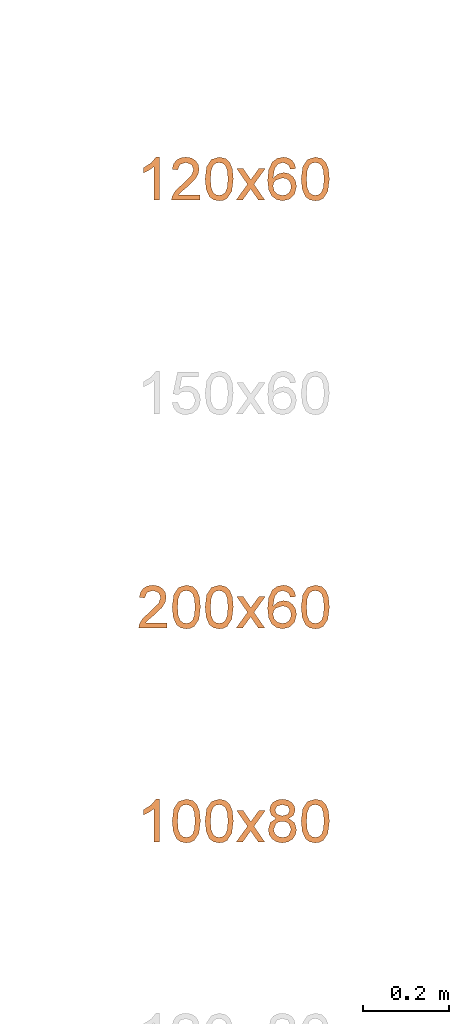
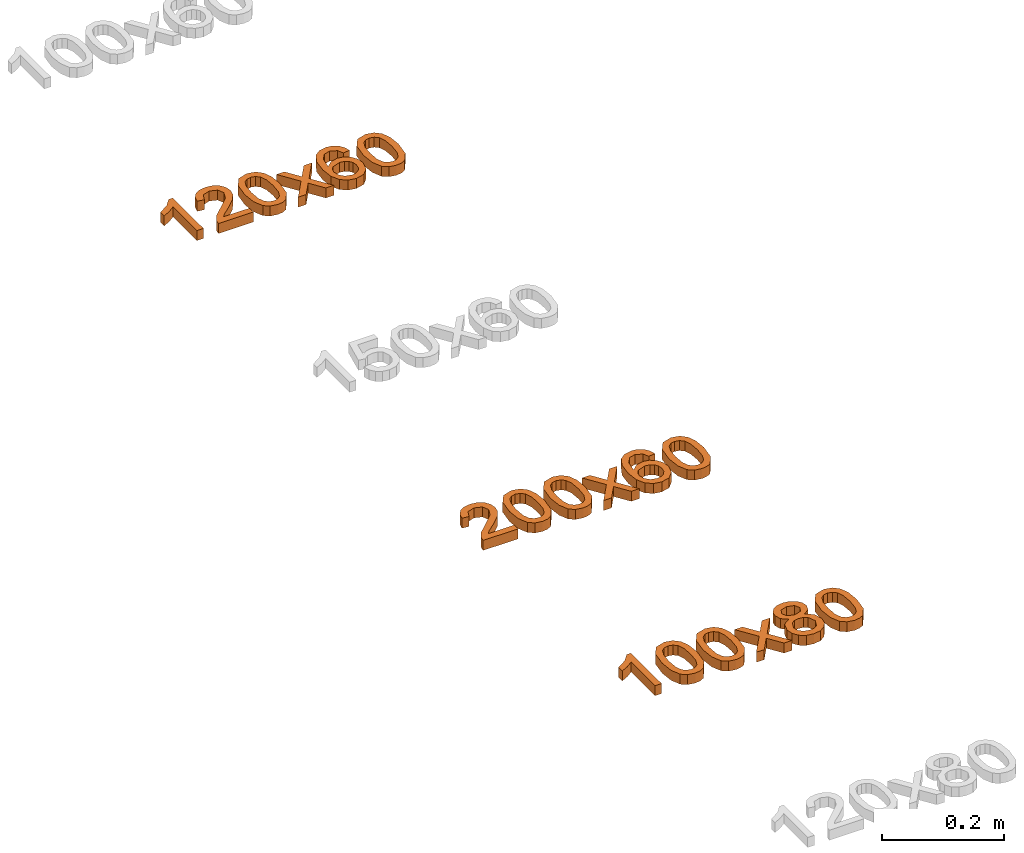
# One storey, part 52 of 71: 3 proxies.
"""IFC2X3 building model written with IfcOpenShell, lengths in millimetres."""

from ifc_helpers import new_model, entity, si_unit, converted_unit, derived_unit, direction, frame, origin, place, context, subcontext, project, spatial, polyline, outline, extrude, element, save


model = new_model("IFC2X3")

# Units and contexts
model_context = context("Model", 3, precision=0.01, world=origin(), true_north=direction((6.12303176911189e-17, 1.0)))
body_context = subcontext(model_context, "Body", "Model", "MODEL_VIEW")
ifc_project = project(units=[si_unit("LENGTHUNIT", "METRE", prefix="MILLI"), si_unit("AREAUNIT", "SQUARE_METRE"), si_unit("VOLUMEUNIT", "CUBIC_METRE"), converted_unit("PLANEANGLEUNIT", "DEGREE", entity("IfcRatioMeasure", 0.0174532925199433), si_unit("PLANEANGLEUNIT", "RADIAN"), dimensions=[0, 0, 0, 0, 0, 0, 0]), si_unit("MASSUNIT", "GRAM", prefix="KILO"), derived_unit("MASSDENSITYUNIT", [(si_unit("MASSUNIT", "GRAM", prefix="KILO"), 1), (si_unit("LENGTHUNIT", "METRE"), -3)]), si_unit("TIMEUNIT", "SECOND"), si_unit("FREQUENCYUNIT", "HERTZ"), si_unit("THERMODYNAMICTEMPERATUREUNIT", "DEGREE_CELSIUS"), derived_unit("THERMALTRANSMITTANCEUNIT", [(si_unit("MASSUNIT", "GRAM", prefix="KILO"), 1), (si_unit("THERMODYNAMICTEMPERATUREUNIT", "KELVIN"), -1), (si_unit("TIMEUNIT", "SECOND"), -3)]), derived_unit("VOLUMETRICFLOWRATEUNIT", [(si_unit("LENGTHUNIT", "METRE"), 3), (si_unit("TIMEUNIT", "SECOND"), -1)]), si_unit("ELECTRICCURRENTUNIT", "AMPERE"), si_unit("ELECTRICVOLTAGEUNIT", "VOLT"), si_unit("POWERUNIT", "WATT"), si_unit("FORCEUNIT", "NEWTON", prefix="KILO"), si_unit("ILLUMINANCEUNIT", "LUX"), si_unit("LUMINOUSFLUXUNIT", "LUMEN"), si_unit("LUMINOUSINTENSITYUNIT", "CANDELA"), derived_unit("USERDEFINED", [(si_unit("MASSUNIT", "GRAM", prefix="KILO"), -1), (si_unit("LENGTHUNIT", "METRE"), -2), (si_unit("TIMEUNIT", "SECOND"), 3), (si_unit("LUMINOUSFLUXUNIT", "LUMEN"), 1)]), derived_unit("LINEARVELOCITYUNIT", [(si_unit("LENGTHUNIT", "METRE"), 1), (si_unit("TIMEUNIT", "SECOND"), -1)]), si_unit("PRESSUREUNIT", "PASCAL"), derived_unit("USERDEFINED", [(si_unit("LENGTHUNIT", "METRE"), -2), (si_unit("MASSUNIT", "GRAM", prefix="KILO"), 1), (si_unit("TIMEUNIT", "SECOND"), -2)])], contexts=[model_context])

# Site, building, storey
site_placement = place(None, origin())
site = spatial("IfcSite", under=ifc_project, at=site_placement, Name="Default", CompositionType="ELEMENT")
building_placement = place(site_placement, origin())
building = spatial("IfcBuilding", under=site, at=building_placement, Name="Наименование здания", CompositionType="ELEMENT")
storey_placement = place(building_placement, origin())
storey = spatial("IfcBuildingStorey", under=building, at=storey_placement, Name="Этаж 01", CompositionType="ELEMENT", Elevation=0.0)

# Proxies
proxy_1_placement = place(storey_placement, origin())
element("IfcBuildingElementProxy", 1, at=proxy_1_placement, inside=storey, Name="Текст модели:100 мм Arial", ObjectType="Текст модели:100 мм Arial", context=body_context, shape_type="SweptSolid", body=[
    extrude(outline(polyline([(-63.8793021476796, -16.9184842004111), (36.5770080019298, -16.9184842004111), (36.5770080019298, -8.82508030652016), (23.2106288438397, 2.34626961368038), (11.4629304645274, 20.7526321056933), (-0.407395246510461, 20.7526321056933), (5.93243780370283, 7.53340574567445), (14.4059864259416, -4.3614454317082), (-63.8793021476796, -4.3614454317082), (-63.8793021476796, -16.9184842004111)])), frame((18050.6140165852, -1399.45595365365, 0.0), z_axis=(0.0, 0.0, 1.0), x_axis=(0.0, 1.0, 0.0)), (0.0, 0.0, 1.0), 20.0),
    extrude(outline(polyline([(-32.3858783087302, -45.1669477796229), (-32.3858783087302, -57.7239865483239), (33.5385752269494, -57.7239865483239), (32.1896745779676, -49.0664969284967), (24.5622545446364, -35.7369059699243), (8.84143061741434, -21.1810416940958), (-12.8390816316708, -0.260818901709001), (-18.2592096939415, 13.9639515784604), (-13.1456499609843, 25.4786580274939), (0.20846646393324, 30.1752848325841), (14.1266686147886, 25.5890226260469), (19.4119066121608, 12.90935652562), (31.9689453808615, 14.4789863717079), (28.9247218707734, 26.6252235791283), (22.3426998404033, 35.4973110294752), (12.5662358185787, 40.9235704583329), (-0.0613136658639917, 42.7323236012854), (-12.7808336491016, 40.7212353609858), (-22.5389035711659, 34.6879706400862), (-28.7469122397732, 25.6748617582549), (-30.8162484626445, 14.724241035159), (-28.5844310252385, 2.81712712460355), (-21.1654774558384, -9.49465698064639), (-3.17604789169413, -26.6992716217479), (11.2694517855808, -38.7780637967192), (16.9348345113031, -45.1669477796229), (-32.3858783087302, -45.1669477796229)])), frame((18129.3244132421, -1405.61126925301, 0.0), z_axis=(0.0, 0.0, -1.0), x_axis=(-1.0, 0.0, 0.0)), (0.0, 0.0, -1.0), 20.0),
    extrude(outline(polyline([(-7.02884310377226, -33.3490673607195), (17.5323805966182, -33.3490673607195), (35.198417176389, -27.6137612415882), (43.3439841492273, -18.4876517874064), (47.0516941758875, -5.75150665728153), (46.7162020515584, 4.48638208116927), (43.4465778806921, 13.0955287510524), (27.9444305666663, 25.6659118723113), (-0.314338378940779, 32.2325535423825), (-24.0296505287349, 32.3678288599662), (-39.4143020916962, 28.0260881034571), (-49.7293680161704, 18.9002174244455), (-54.4436715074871, 4.63998875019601), (-50.8676582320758, -14.130105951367), (-35.4058547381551, -26.7333390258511), (-7.02884310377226, -33.3490673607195)]), holes=[polyline([(-5.77428774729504, -20.8548320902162), (-25.0157644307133, -17.3562860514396), (-36.7257089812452, -11.5717922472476), (-41.0962588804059, -4.77599682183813), (-41.9669219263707, 3.21464792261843), (-39.2244253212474, 11.2791292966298), (-32.8654063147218, 17.2229259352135), (-20.9698370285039, 20.2947501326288), (-1.6176895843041, 19.7433141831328), (17.8514140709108, 16.2707701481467), (28.780364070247, 10.7141596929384), (33.5546988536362, 3.6181595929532), (34.5599568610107, -4.47255337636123), (31.9421230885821, -12.1923199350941), (25.8471825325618, -18.1754808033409), (14.0250679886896, -21.4027476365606), (-5.77428774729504, -20.8548320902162)])]), frame((18208.158867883, -1417.512078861, 0.0), z_axis=(0.0, 0.0, 1.0), x_axis=(0.1018515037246, -0.994799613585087, 0.0)), (0.0, 0.0, 1.0), 20.0),
    extrude(outline(polyline([(-34.530221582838, -38.4265006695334), (-19.422534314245, -38.4265006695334), (-0.341721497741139, -12.0616243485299), (2.47870713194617, -16.1328517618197), (17.8561745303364, -38.4265006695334), (32.9638617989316, -38.4265006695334), (7.40832586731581, -1.34399555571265), (33.944880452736, 35.3461020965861), (18.8371931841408, 35.3461020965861), (4.95577923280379, 16.1671874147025), (0.0261604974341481, 9.34910777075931), (-5.66374769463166, 17.6877663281), (-17.8529044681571, 35.3461020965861), (-32.9605917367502, 35.3461020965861), (-7.6993614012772, -1.34399555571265), (-34.530221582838, -38.4265006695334)])), frame((18281.0005248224, -1424.9087551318, 0.0)), (0.0, 0.0, 1.0), 20.0),
    extrude(outline(polyline([(6.79275401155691, -32.5027761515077), (18.3659045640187, -32.5027761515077), (28.152520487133, -28.8011371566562), (35.6312934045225, -21.7178704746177), (40.2809149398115, -11.5729874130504), (41.41307898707, 3.23667074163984), (36.1391243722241, 16.3729018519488), (21.8599739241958, 28.8803269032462), (-1.50836821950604, 38.2054593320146), (-23.6059131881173, 41.7609274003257), (-39.981422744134, 38.596528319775), (-51.1650797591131, 29.9216784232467), (-57.6870671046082, 16.9457940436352), (-57.9805556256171, -0.0494879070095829), (-49.2081886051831, -14.3141019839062), (-33.6167855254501, -22.9350568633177), (-20.6265742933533, -24.2502330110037), (-8.97800352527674, -20.6254922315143), (0.0919027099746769, -13.035096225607), (5.34612034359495, -2.45330669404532), (5.8548316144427, 11.6447254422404), (-0.843339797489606, 24.9910631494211), (19.7707676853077, 15.5765036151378), (28.4840991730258, 4.26766164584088), (28.3893512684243, -7.4637453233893), (19.9956250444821, -18.193633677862), (8.63303585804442, -19.9825396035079), (6.79275401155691, -32.5027761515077)]), holes=[polyline([(-18.7586717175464, 29.9549594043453), (-11.6328110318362, 26.3613362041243), (-6.9415407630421, 20.203831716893), (-5.85783236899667, 4.13761066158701), (-9.48331864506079, -3.95286412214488), (-15.1077394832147, -9.26901644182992), (-22.3091633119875, -11.5969098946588), (-30.665658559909, -10.7226080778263), (-38.6094491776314, -7.06141592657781), (-43.8637090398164, -1.22509865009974), (-46.183528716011, 6.17768396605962), (-45.3239987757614, 14.5382721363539), (-39.6901171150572, 24.7221971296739), (-30.0168134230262, 30.0585493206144), (-18.7586717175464, 29.9549594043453)])]), frame((18356.6584546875, -1404.7875175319, 0.0), z_axis=(0.0, 0.0, 1.0), x_axis=(-0.267015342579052, 0.963692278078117, 0.0)), (0.0, 0.0, 1.0), 20.0),
    extrude(outline(polyline([(-7.0288431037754, -33.3490673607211), (17.5323805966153, -33.349067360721), (35.1984171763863, -27.6137612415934), (43.3439841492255, -18.4876517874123), (47.051694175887, -5.75150665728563), (46.7162020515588, 4.48638208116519), (43.4465778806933, 13.0955287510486), (27.9444305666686, 25.6659118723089), (-0.314338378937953, 32.2325535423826), (-24.0296505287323, 32.3678288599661), (-39.4143020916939, 28.0260881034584), (-49.729368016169, 18.9002174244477), (-54.4436715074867, 4.63998875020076), (-50.8676582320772, -14.1301059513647), (-35.4058547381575, -26.733339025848), (-7.0288431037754, -33.3490673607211)]), holes=[polyline([(-5.77428774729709, -20.8548320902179), (-25.0157644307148, -17.3562860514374), (-36.7257089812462, -11.5717922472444), (-41.0962588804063, -4.77599682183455), (-41.9669219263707, 3.21464792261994), (-39.2244253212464, 11.2791292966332), (-32.8654063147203, 17.2229259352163), (-20.9698370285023, 20.2947501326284), (-1.61768958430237, 19.743314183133), (17.8514140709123, 16.2707701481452), (28.7803640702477, 10.7141596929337), (33.5546988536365, 3.61815959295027), (34.5599568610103, -4.47255337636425), (31.9421230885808, -12.192319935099), (25.84718253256, -18.1754808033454), (14.0250679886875, -21.402747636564), (-5.77428774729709, -20.8548320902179)])]), frame((18432.6159358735, -1417.512078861, 0.0), z_axis=(0.0, 0.0, 1.0), x_axis=(0.101851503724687, -0.994799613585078, 0.0)), (0.0, 0.0, 1.0), 20.0),
])
proxy_2_placement = place(storey_placement, origin())
element("IfcBuildingElementProxy", 2, at=proxy_2_placement, inside=storey, Name="Текст модели:100 мм Arial", ObjectType="Текст модели:100 мм Arial", context=body_context, shape_type="SweptSolid", body=[
    extrude(outline(polyline([(-32.385878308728, -45.1669477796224), (-32.385878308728, -57.7239865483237), (33.5385752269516, -57.7239865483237), (32.1896745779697, -49.0664969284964), (24.5622545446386, -35.736905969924), (8.84143061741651, -21.1810416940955), (-12.8390816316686, -0.260818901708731), (-18.2592096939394, 13.9639515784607), (-13.1456499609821, 25.4786580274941), (0.208466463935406, 30.1752848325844), (14.1266686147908, 25.5890226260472), (19.4119066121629, 12.9093565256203), (31.9689453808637, 14.4789863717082), (28.9247218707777, 26.6252235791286), (22.3426998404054, 35.4973110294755), (12.5662358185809, 40.9235704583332), (-0.0613136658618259, 42.7323236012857), (-12.7808336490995, 40.7212353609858), (-22.5389035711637, 34.6879706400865), (-28.746912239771, 25.6748617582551), (-30.8162484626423, 14.7242410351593), (-28.5844310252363, 2.81712712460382), (-21.1654774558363, -9.49465698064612), (-3.17604789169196, -26.6992716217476), (11.2694517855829, -38.778063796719), (16.9348345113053, -45.1669477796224), (-32.385878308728, -45.1669477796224)])), frame((18052.4125507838, -2405.61126925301, 0.0), z_axis=(0.0, 0.0, -1.0), x_axis=(-1.0, 0.0, 0.0)), (0.0, 0.0, -1.0), 20.0),
    extrude(outline(polyline([(-7.02884310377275, -33.3490673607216), (17.5323805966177, -33.3490673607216), (35.1984171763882, -27.6137612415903), (43.3439841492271, -18.4876517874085), (47.0516941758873, -5.75150665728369), (46.7162020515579, 4.48638208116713), (43.4465778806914, 13.0955287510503), (27.9444305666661, 25.6659118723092), (-0.314338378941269, 32.2325535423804), (-24.0296505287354, 32.3678288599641), (-39.4143020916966, 28.026088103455), (-49.7293680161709, 18.9002174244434), (-54.4436715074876, 4.6399887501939), (-50.8676582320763, -14.1301059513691), (-35.4058547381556, -26.7333390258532), (-7.02884310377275, -33.3490673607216)]), holes=[polyline([(-5.77428774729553, -20.8548320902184), (-25.0157644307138, -17.3562860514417), (-36.7257089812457, -11.5717922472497), (-41.0962588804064, -4.77599682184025), (-41.9669219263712, 3.21464792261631), (-39.2244253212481, 11.2791292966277), (-32.8654063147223, 17.2229259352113), (-20.9698370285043, 20.2947501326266), (-1.61768958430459, 19.7433141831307), (17.8514140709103, 16.2707701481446), (28.7803640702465, 10.7141596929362), (33.5546988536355, 3.61815959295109), (34.5599568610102, -4.47255337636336), (31.9421230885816, -12.1923199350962), (25.8471825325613, -18.1754808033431), (14.0250679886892, -21.4027476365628), (-5.77428774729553, -20.8548320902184)])]), frame((18131.2470054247, -2417.512078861, 0.0), z_axis=(0.0, 0.0, 1.0), x_axis=(0.1018515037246, -0.994799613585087, 0.0)), (0.0, 0.0, 1.0), 20.0),
    extrude(outline(polyline([(-7.02884310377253, -33.3490673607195), (17.5323805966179, -33.3490673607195), (35.1984171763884, -27.6137612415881), (43.3439841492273, -18.4876517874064), (47.0516941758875, -5.75150665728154), (46.7162020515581, 4.48638208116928), (43.4465778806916, 13.0955287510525), (27.9444305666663, 25.6659118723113), (-0.314338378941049, 32.2325535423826), (-24.0296505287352, 32.3678288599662), (-39.4143020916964, 28.0260881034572), (-49.7293680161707, 18.9002174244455), (-54.4436715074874, 4.63998875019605), (-50.8676582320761, -14.1301059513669), (-35.4058547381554, -26.733339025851), (-7.02884310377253, -33.3490673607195)]), holes=[polyline([(-5.77428774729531, -20.8548320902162), (-25.0157644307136, -17.3562860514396), (-36.7257089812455, -11.5717922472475), (-41.0962588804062, -4.77599682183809), (-41.966921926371, 3.21464792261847), (-39.2244253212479, 11.2791292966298), (-32.8654063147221, 17.2229259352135), (-20.9698370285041, 20.2947501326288), (-1.61768958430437, 19.7433141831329), (17.8514140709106, 16.2707701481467), (28.7803640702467, 10.7141596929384), (33.5546988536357, 3.61815959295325), (34.5599568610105, -4.47255337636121), (31.9421230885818, -12.192319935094), (25.8471825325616, -18.1754808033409), (14.0250679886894, -21.4027476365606), (-5.77428774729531, -20.8548320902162)])]), frame((18208.158867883, -2417.512078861, 0.0), z_axis=(0.0, 0.0, 1.0), x_axis=(0.1018515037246, -0.994799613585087, 0.0)), (0.0, 0.0, 1.0), 20.0),
    extrude(outline(polyline([(-34.530221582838, -38.4265006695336), (-19.422534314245, -38.4265006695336), (-0.341721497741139, -12.0616243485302), (2.47870713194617, -16.1328517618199), (17.8561745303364, -38.4265006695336), (32.9638617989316, -38.4265006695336), (7.40832586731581, -1.34399555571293), (33.944880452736, 35.3461020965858), (18.8371931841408, 35.3461020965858), (4.95577923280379, 16.1671874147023), (0.0261604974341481, 9.34910777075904), (-5.66374769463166, 17.6877663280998), (-17.8529044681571, 35.3461020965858), (-32.9605917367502, 35.3461020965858), (-7.6993614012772, -1.34399555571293), (-34.530221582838, -38.4265006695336)])), frame((18281.0005248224, -2424.9087551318, 0.0)), (0.0, 0.0, 1.0), 20.0),
    extrude(outline(polyline([(6.79275401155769, -32.502776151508), (18.3659045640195, -32.502776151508), (28.1525204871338, -28.8011371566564), (35.6312934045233, -21.7178704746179), (40.2809149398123, -11.5729874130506), (41.4130789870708, 3.23667074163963), (36.1391243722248, 16.3729018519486), (21.8599739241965, 28.880326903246), (-1.50836821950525, 38.2054593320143), (-23.6059131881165, 41.7609274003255), (-39.9814227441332, 38.5965283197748), (-51.1650797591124, 29.9216784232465), (-57.6870671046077, 16.9457940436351), (-57.9805556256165, -0.0494879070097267), (-49.2081886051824, -14.3141019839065), (-33.6167855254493, -22.9350568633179), (-20.6265742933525, -24.2502330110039), (-8.97800352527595, -20.6254922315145), (0.0919027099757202, -13.0350962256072), (5.34612034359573, -2.45330669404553), (5.85483161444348, 11.6447254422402), (-0.843339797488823, 24.9910631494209), (19.7707676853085, 15.5765036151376), (28.4840991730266, 4.26766164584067), (28.389351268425, -7.46374532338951), (19.9956250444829, -18.1936336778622), (8.6330358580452, -19.9825396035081), (6.79275401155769, -32.502776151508)]), holes=[polyline([(-18.7586717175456, 29.9549594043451), (-11.6328110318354, 26.3613362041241), (-6.94154076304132, 20.2038317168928), (-5.85783236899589, 4.1376106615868), (-9.48331864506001, -3.95286412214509), (-15.107739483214, -9.26901644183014), (-22.3091633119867, -11.596909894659), (-30.6656585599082, -10.7226080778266), (-38.6094491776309, -7.06141592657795), (-43.8637090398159, -1.22509865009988), (-46.1835287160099, 6.17768396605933), (-45.3239987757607, 14.5382721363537), (-39.6901171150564, 24.7221971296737), (-30.0168134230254, 30.0585493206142), (-18.7586717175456, 29.9549594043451)])]), frame((18356.6584546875, -2404.7875175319, 0.0), z_axis=(0.0, 0.0, 1.0), x_axis=(-0.267015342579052, 0.963692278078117, 0.0)), (0.0, 0.0, 1.0), 20.0),
    extrude(outline(polyline([(-7.02884310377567, -33.349067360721), (17.532380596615, -33.349067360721), (35.1984171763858, -27.6137612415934), (43.3439841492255, -18.4876517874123), (47.051694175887, -5.75150665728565), (46.7162020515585, 4.48638208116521), (43.4465778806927, 13.0955287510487), (27.9444305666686, 25.6659118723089), (-0.314338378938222, 32.2325535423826), (-24.0296505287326, 32.3678288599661), (-39.4143020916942, 28.0260881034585), (-49.7293680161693, 18.9002174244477), (-54.443671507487, 4.6399887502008), (-50.8676582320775, -14.1301059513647), (-35.4058547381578, -26.7333390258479), (-7.02884310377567, -33.349067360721)]), holes=[polyline([(-5.77428774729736, -20.8548320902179), (-25.0157644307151, -17.3562860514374), (-36.7257089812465, -11.5717922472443), (-41.0962588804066, -4.77599682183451), (-41.9669219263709, 3.21464792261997), (-39.2244253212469, 11.2791292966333), (-32.8654063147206, 17.2229259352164), (-20.9698370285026, 20.2947501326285), (-1.61768958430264, 19.743314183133), (17.851414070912, 16.2707701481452), (28.7803640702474, 10.7141596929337), (33.554698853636, 3.61815959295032), (34.5599568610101, -4.47255337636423), (31.9421230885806, -12.192319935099), (25.8471825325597, -18.1754808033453), (14.0250679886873, -21.402747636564), (-5.77428774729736, -20.8548320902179)])]), frame((18432.6159358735, -2417.512078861, 0.0), z_axis=(0.0, 0.0, 1.0), x_axis=(0.101851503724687, -0.994799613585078, 0.0)), (0.0, 0.0, 1.0), 20.0),
])
proxy_3_placement = place(storey_placement, origin())
element("IfcBuildingElementProxy", 3, at=proxy_3_placement, inside=storey, Name="Текст модели:100 мм Arial", ObjectType="Текст модели:100 мм Arial", context=body_context, shape_type="SweptSolid", body=[
    extrude(outline(polyline([(-63.8793021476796, -16.9184842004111), (36.5770080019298, -16.9184842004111), (36.5770080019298, -8.82508030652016), (23.2106288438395, 2.34626961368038), (11.4629304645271, 20.7526321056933), (-0.407395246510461, 20.7526321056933), (5.93243780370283, 7.53340574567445), (14.4059864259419, -4.3614454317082), (-63.8793021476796, -4.3614454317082), (-63.8793021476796, -16.9184842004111)])), frame((18050.6140165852, -2899.45595365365, 0.0), z_axis=(0.0, 0.0, 1.0), x_axis=(0.0, 1.0, 0.0)), (0.0, 0.0, 1.0), 20.0),
    extrude(outline(polyline([(-7.02884310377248, -33.3490673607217), (17.532380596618, -33.3490673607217), (35.1984171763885, -27.6137612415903), (43.3439841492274, -18.4876517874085), (47.0516941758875, -5.75150665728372), (46.7162020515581, 4.4863820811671), (43.4465778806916, 13.0955287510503), (27.9444305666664, 25.6659118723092), (-0.314338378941, 32.2325535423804), (-24.0296505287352, 32.367828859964), (-39.4143020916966, 28.026088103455), (-49.7293680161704, 18.9002174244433), (-54.4436715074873, 4.63998875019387), (-50.8676582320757, -14.1301059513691), (-35.4058547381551, -26.7333390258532), (-7.02884310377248, -33.3490673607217)]), holes=[polyline([(-5.77428774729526, -20.8548320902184), (-25.0157644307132, -17.3562860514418), (-36.7257089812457, -11.5717922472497), (-41.0962588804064, -4.77599682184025), (-41.966921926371, 3.21464792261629), (-39.2244253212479, 11.2791292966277), (-32.8654063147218, 17.2229259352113), (-20.9698370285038, 20.2947501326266), (-1.61768958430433, 19.7433141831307), (17.8514140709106, 16.2707701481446), (28.7803640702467, 10.7141596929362), (33.5546988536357, 3.61815959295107), (34.5599568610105, -4.47255337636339), (31.9421230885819, -12.1923199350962), (25.8471825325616, -18.1754808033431), (14.0250679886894, -21.4027476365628), (-5.77428774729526, -20.8548320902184)])]), frame((18131.2470054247, -2917.512078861, 0.0), z_axis=(0.0, 0.0, 1.0), x_axis=(0.1018515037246, -0.994799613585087, 0.0)), (0.0, 0.0, 1.0), 20.0),
    extrude(outline(polyline([(-7.02884310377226, -33.3490673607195), (17.5323805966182, -33.3490673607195), (35.1984171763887, -27.6137612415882), (43.3439841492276, -18.4876517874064), (47.0516941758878, -5.75150665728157), (46.7162020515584, 4.48638208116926), (43.4465778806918, 13.0955287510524), (27.9444305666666, 25.6659118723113), (-0.314338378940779, 32.2325535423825), (-24.0296505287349, 32.3678288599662), (-39.4143020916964, 28.0260881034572), (-49.7293680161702, 18.9002174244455), (-54.4436715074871, 4.63998875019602), (-50.8676582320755, -14.130105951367), (-35.4058547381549, -26.7333390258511), (-7.02884310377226, -33.3490673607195)]), holes=[polyline([(-5.77428774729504, -20.8548320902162), (-25.015764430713, -17.3562860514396), (-36.7257089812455, -11.5717922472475), (-41.0962588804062, -4.77599682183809), (-41.9669219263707, 3.21464792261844), (-39.2244253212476, 11.2791292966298), (-32.8654063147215, 17.2229259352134), (-20.9698370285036, 20.2947501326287), (-1.6176895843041, 19.7433141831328), (17.8514140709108, 16.2707701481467), (28.780364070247, 10.7141596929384), (33.5546988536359, 3.61815959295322), (34.5599568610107, -4.47255337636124), (31.9421230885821, -12.1923199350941), (25.8471825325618, -18.175480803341), (14.0250679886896, -21.4027476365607), (-5.77428774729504, -20.8548320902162)])]), frame((18208.158867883, -2917.512078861, 0.0), z_axis=(0.0, 0.0, 1.0), x_axis=(0.1018515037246, -0.994799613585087, 0.0)), (0.0, 0.0, 1.0), 20.0),
    extrude(outline(polyline([(-34.530221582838, -38.4265006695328), (-19.422534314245, -38.4265006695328), (-0.341721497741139, -12.0616243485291), (2.47870713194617, -16.1328517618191), (17.8561745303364, -38.4265006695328), (32.9638617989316, -38.4265006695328), (7.40832586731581, -1.34399555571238), (33.944880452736, 35.3461020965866), (18.8371931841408, 35.3461020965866), (4.95577923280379, 16.1671874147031), (0.0261604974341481, 9.34910777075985), (-5.66374769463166, 17.6877663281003), (-17.8529044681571, 35.3461020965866), (-32.9605917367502, 35.3461020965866), (-7.6993614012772, -1.34399555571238), (-34.530221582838, -38.4265006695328)])), frame((18281.0005248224, -2924.9087551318, 0.0)), (0.0, 0.0, 1.0), 20.0),
    extrude(outline(polyline([(10.1224324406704, -11.2212127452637), (26.4477736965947, -11.2212127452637), (39.686138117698, -0.0909413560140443), (44.6322314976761, 11.3078156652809), (44.5856416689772, 23.4168603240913), (39.6073830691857, 34.8346290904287), (29.7584701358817, 44.1595584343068), (17.4236057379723, 49.795656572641), (4.98749274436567, 50.1469317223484), (-6.20047708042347, 45.7236060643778), (-14.7909119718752, 37.0359017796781), (-20.0781666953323, 21.0056847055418), (-14.5070621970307, 5.37692494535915), (-28.0684052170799, 5.15563707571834), (-37.7221714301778, -2.60845010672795), (-41.5236361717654, -11.935700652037), (-41.0036870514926, -22.2232653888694), (-36.1916154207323, -32.1870777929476), (-27.1167126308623, -40.5430713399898), (-16.0503295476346, -45.812309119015), (-5.18246445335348, -46.5706787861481), (4.3845330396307, -43.2361071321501), (11.5483133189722, -36.2265209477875), (15.2516244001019, -24.0826582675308), (10.1224324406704, -11.2212127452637)]), holes=[polyline([(29.0262968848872, 6.56051660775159), (17.1806533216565, -1.51571690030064), (9.68494123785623, -1.27757268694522), (1.95268767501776, 2.32885586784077), (-4.46267094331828, 8.27886886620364), (-7.64161156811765, 15.3010558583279), (-4.59707955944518, 29.6929468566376), (7.31333657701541, 37.799466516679), (14.8367372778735, 37.487209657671), (22.6595729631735, 33.8012523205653), (30.3730358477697, 25.5864099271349), (32.5711030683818, 15.5727469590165), (29.0262968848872, 6.56051660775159)]), polyline([(1.34077476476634, -28.903904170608), (-7.53771017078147, -33.9815875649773), (-20.2415350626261, -30.0339976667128), (-28.5905650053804, -19.6902819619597), (-26.9800933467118, -9.13787919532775), (-18.1108932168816, -3.87648928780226), (-5.45128168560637, -7.82385811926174), (3.1592702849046, -18.2403048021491), (1.34077476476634, -28.903904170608)])]), frame((18354.7737407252, -2911.65422231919, 0.0), z_axis=(0.0, 0.0, 1.0), x_axis=(-0.829266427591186, -0.558853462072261, 0.0)), (0.0, 0.0, 1.0), 20.0),
    extrude(outline(polyline([(-7.0288431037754, -33.349067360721), (17.5323805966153, -33.349067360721), (35.1984171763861, -27.6137612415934), (43.3439841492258, -18.4876517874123), (47.0516941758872, -5.75150665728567), (46.7162020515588, 4.48638208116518), (43.446577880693, 13.0955287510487), (27.9444305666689, 25.6659118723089), (-0.314338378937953, 32.2325535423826), (-24.0296505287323, 32.3678288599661), (-39.4143020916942, 28.0260881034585), (-49.7293680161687, 18.9002174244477), (-54.4436715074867, 4.63998875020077), (-50.867658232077, -14.1301059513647), (-35.4058547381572, -26.733339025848), (-7.0288431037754, -33.349067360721)]), holes=[polyline([(-5.77428774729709, -20.8548320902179), (-25.0157644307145, -17.3562860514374), (-36.7257089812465, -11.5717922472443), (-41.0962588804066, -4.77599682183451), (-41.9669219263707, 3.21464792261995), (-39.2244253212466, 11.2791292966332), (-32.86540631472, 17.2229259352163), (-20.969837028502, 20.2947501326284), (-1.61768958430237, 19.743314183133), (17.8514140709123, 16.2707701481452), (28.7803640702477, 10.7141596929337), (33.5546988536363, 3.61815959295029), (34.5599568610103, -4.47255337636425), (31.9421230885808, -12.192319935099), (25.84718253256, -18.1754808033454), (14.0250679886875, -21.402747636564), (-5.77428774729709, -20.8548320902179)])]), frame((18432.6159358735, -2917.512078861, 0.0), z_axis=(0.0, 0.0, 1.0), x_axis=(0.101851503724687, -0.994799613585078, 0.0)), (0.0, 0.0, 1.0), 20.0),
])

save(model, "model.ifc")
